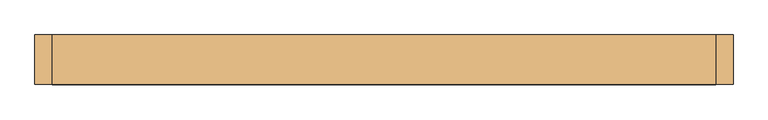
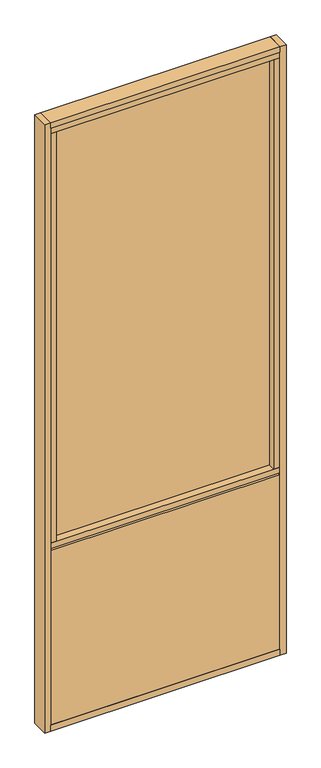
"""IFC4 building model written with IfcOpenShell, lengths in millimetres: door geometry, Mobiliário_Mobiliário de Escritório_Painel Misto Vidro Simples - AST E ASL (Completo)_Marelli : AST - Temperado."""

from ifc_helpers import new_model, si_unit, frame, origin, origin_with_axes, place, context, project, spatial, polyline, outline, extrude, source, transform, mapped, element, save


def door_854ab25a(model_context):
    return source(origin(), model_context, "Body", "SweptSolid", [
        extrude(outline(polyline([(570.0, 42.5), (570.0, -42.5), (-570.0, -42.5), (-570.0, 42.5), (570.0, 42.5)])), origin_with_axes(), (0.0, 0.0, 1.0), 30.0),
        extrude(outline(polyline([(570.0, 39.5), (570.0, 21.5), (-570.0, 21.5), (-570.0, 39.5), (570.0, 39.5)])), frame((0.0, 0.0, 30.0), z_axis=(0.0, 0.0, 1.0), x_axis=(1.0, 0.0, 0.0)), (0.0, 0.0, 1.0), 916.5),
        extrude(outline(polyline([(570.0, 21.5), (570.0, -21.5), (-570.0, -21.5), (-570.0, 21.5), (570.0, 21.5)])), frame((0.0, 0.0, 913.5), z_axis=(0.0, 0.0, 1.0), x_axis=(1.0, 0.0, 0.0)), (0.0, 0.0, 1.0), 43.0),
        extrude(outline(polyline([(570.0, -39.5), (-570.0, -39.5), (-570.0, -21.5), (570.0, -21.5), (570.0, -39.5)])), frame((0.0, 0.0, 30.0), z_axis=(0.0, 0.0, 1.0), x_axis=(1.0, 0.0, 0.0)), (0.0, 0.0, 1.0), 916.5),
        extrude(outline(polyline([(570.0, 39.5), (570.0, -39.5), (-570.0, -39.5), (-570.0, 39.5), (570.0, 39.5)])), frame((0.0, 0.0, 956.5), z_axis=(0.0, 0.0, 1.0), x_axis=(1.0, 0.0, 0.0)), (0.0, 0.0, 1.0), 30.0),
        extrude(outline(polyline([(570.0, 42.5), (570.0, -42.5), (-570.0, -42.5), (-570.0, 42.5), (570.0, 42.5)])), frame((0.0, 0.0, 3170.0), z_axis=(0.0, 0.0, 1.0), x_axis=(1.0, 0.0, 0.0)), (0.0, 0.0, 1.0), 30.0),
        extrude(outline(polyline([(570.0, 39.5), (570.0, -39.5), (-570.0, -39.5), (-570.0, 39.5), (570.0, 39.5)])), frame((0.0, 0.0, 3140.0), z_axis=(0.0, 0.0, 1.0), x_axis=(1.0, 0.0, 0.0)), (0.0, 0.0, 1.0), 30.0),
        extrude(outline(polyline([(-600.0, -42.5), (-600.0, 42.5), (-570.0, 42.5), (-570.0, -42.5), (-600.0, -42.5)])), origin_with_axes(), (0.0, 0.0, 1.0), 3200.0),
        extrude(outline(polyline([(600.0, -42.5), (570.0, -42.5), (570.0, 42.5), (600.0, 42.5), (600.0, -42.5)])), origin_with_axes(), (0.0, 0.0, 1.0), 3200.0),
        extrude(outline(polyline([(-540.0, 39.5), (-540.0, -39.5), (-570.0, -39.5), (-570.0, 39.5), (-540.0, 39.5)])), frame((0.0, 0.0, 986.5), z_axis=(0.0, 0.0, 1.0), x_axis=(1.0, 0.0, 0.0)), (0.0, 0.0, 1.0), 2153.5),
        extrude(outline(polyline([(540.0, 39.5), (570.0, 39.5), (570.0, -39.5), (540.0, -39.5), (540.0, 39.5)])), frame((0.0, 0.0, 986.5), z_axis=(0.0, 0.0, 1.0), x_axis=(1.0, 0.0, 0.0)), (0.0, 0.0, 1.0), 2153.5),
        extrude(outline(polyline([(540.0, 3.0), (540.0, -3.0), (-540.0, -3.0), (-540.0, 3.0), (540.0, 3.0)])), frame((0.0, 0.0, 986.5), z_axis=(0.0, 0.0, 1.0), x_axis=(1.0, 0.0, 0.0)), (0.0, 0.0, 1.0), 2153.5),
    ])


if __name__ == "__main__":
    model = new_model("IFC4")
    model_context = context("Model", 3, world=origin())
    ifc_project = project(units=[si_unit("LENGTHUNIT", "METRE", prefix="MILLI")], contexts=[model_context])
    site = spatial("IfcSite", under=ifc_project)
    building = spatial("IfcBuilding", under=site)
    placement = place(None, origin())
    door_shape = door_854ab25a(model_context)
    element("IfcDoor", 1, ObjectType="Mobiliário_Mobiliário de Escritório_Painel Misto Vidro Simples - AST E ASL (Completo)_Marelli : AST - Temperado", at=placement, inside=building, context=model_context, shape_type="MappedRepresentation", body=[
        mapped(door_shape, transform((0.0, 0.0, 0.0), x_axis=(1.0, 0.0, 0.0), y_axis=(0.0, 1.0, 0.0), z_axis=(0.0, 0.0, 1.0))),
    ])
    save(model, "model.ifc")
